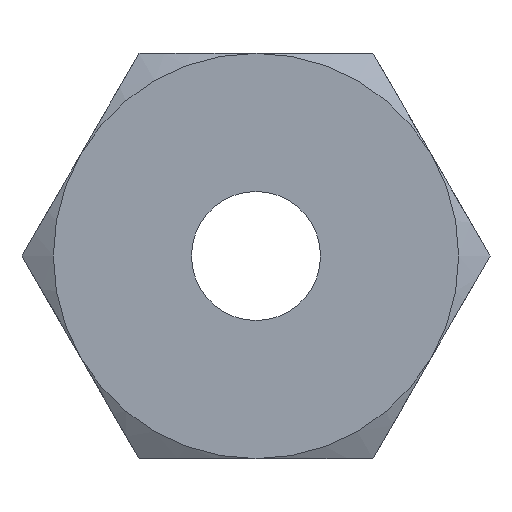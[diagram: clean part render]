
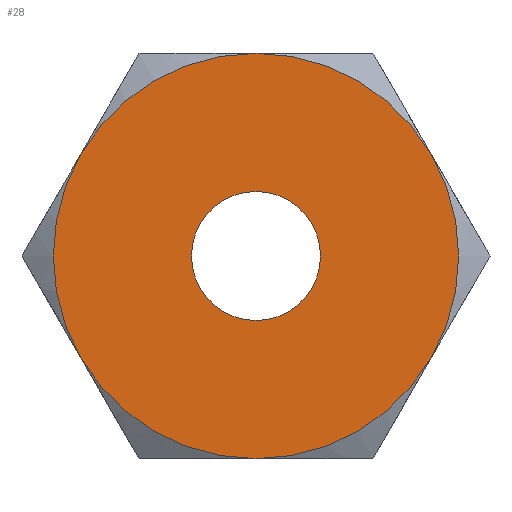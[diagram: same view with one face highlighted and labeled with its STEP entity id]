
A CAD part, front view. The second image highlights one B-rep face of the part: STEP entity #28.
In plain terms, the highlighted planar face has unit normal (0, -1, 0).
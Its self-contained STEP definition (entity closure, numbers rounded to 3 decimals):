
#3 = VERTEX_POINT ( 'NONE', #722 ) ;
#16 = ORIENTED_EDGE ( 'NONE', *, *, #44, .T. ) ;
#19 = EDGE_CURVE ( 'NONE', #693, #3, #738, .T. ) ;
#22 = ORIENTED_EDGE ( 'NONE', *, *, #19, .T. ) ;
#23 = EDGE_LOOP ( 'NONE', ( #22, #16, #42, #41, #36, #39 ) ) ;
#24 = ORIENTED_EDGE ( 'NONE', *, *, #558, .T. ) ;
#25 = EDGE_CURVE ( 'NONE', #559, #560, #732, .T. ) ;
#26 = EDGE_LOOP ( 'NONE', ( #27, #24 ) ) ;
#27 = ORIENTED_EDGE ( 'NONE', *, *, #25, .T. ) ;
#28 = ADVANCED_FACE ( 'NONE', ( #727, #726 ), #723, .F. ) ;
#36 = ORIENTED_EDGE ( 'NONE', *, *, #38, .T. ) ;
#37 = EDGE_CURVE ( 'NONE', #1308, #693, #771, .T. ) ;
#38 = EDGE_CURVE ( 'NONE', #1302, #1308, #762, .T. ) ;
#39 = ORIENTED_EDGE ( 'NONE', *, *, #37, .T. ) ;
#40 = EDGE_CURVE ( 'NONE', #638, #1302, #817, .T. ) ;
#41 = ORIENTED_EDGE ( 'NONE', *, *, #40, .T. ) ;
#42 = ORIENTED_EDGE ( 'NONE', *, *, #43, .T. ) ;
#43 = EDGE_CURVE ( 'NONE', #83, #638, #811, .T. ) ;
#44 = EDGE_CURVE ( 'NONE', #3, #83, #806, .T. ) ;
#83 = VERTEX_POINT ( 'NONE', #903 ) ;
#128 = CARTESIAN_POINT ( 'NONE',  ( -23.816, 0., -13.75 ) ) ;
#249 = CARTESIAN_POINT ( 'NONE',  ( 23.816, 0., 13.75 ) ) ;
#422 = CARTESIAN_POINT ( 'NONE',  ( 23.816, 0., -13.75 ) ) ;
#425 = CARTESIAN_POINT ( 'NONE',  ( 0., 0., -27.5 ) ) ;
#558 = EDGE_CURVE ( 'NONE', #560, #559, #1045, .T. ) ;
#559 = VERTEX_POINT ( 'NONE', #1040 ) ;
#560 = VERTEX_POINT ( 'NONE', #1039 ) ;
#638 = VERTEX_POINT ( 'NONE', #128 ) ;
#693 = VERTEX_POINT ( 'NONE', #249 ) ;
#722 = CARTESIAN_POINT ( 'NONE',  ( 0., 0., 27.5 ) ) ;
#723 = PLANE ( 'NONE',  #725 ) ;
#724 = CARTESIAN_POINT ( 'NONE',  ( 31.754, 0., 0. ) ) ;
#725 = AXIS2_PLACEMENT_3D ( 'NONE', #724, #787, #786 ) ;
#726 = FACE_OUTER_BOUND ( 'NONE', #23, .T. ) ;
#727 = FACE_BOUND ( 'NONE', #26, .T. ) ;
#728 = DIRECTION ( 'NONE',  ( 0., 0., 1. ) ) ;
#729 = DIRECTION ( 'NONE',  ( 0., 1., 0. ) ) ;
#730 = CARTESIAN_POINT ( 'NONE',  ( 0., 0., 0. ) ) ;
#731 = AXIS2_PLACEMENT_3D ( 'NONE', #730, #729, #728 ) ;
#732 = CIRCLE ( 'NONE', #731, 8.75 ) ;
#734 = DIRECTION ( 'NONE',  ( 0., 0., 1. ) ) ;
#735 = DIRECTION ( 'NONE',  ( 0., -1., 0. ) ) ;
#736 = CARTESIAN_POINT ( 'NONE',  ( 0., 0., 0. ) ) ;
#737 = AXIS2_PLACEMENT_3D ( 'NONE', #736, #735, #734 ) ;
#738 = CIRCLE ( 'NONE', #737, 27.5 ) ;
#758 = DIRECTION ( 'NONE',  ( 0., 0., -1. ) ) ;
#759 = DIRECTION ( 'NONE',  ( 0., -1., 0. ) ) ;
#760 = CARTESIAN_POINT ( 'NONE',  ( 0., 0., 0. ) ) ;
#761 = AXIS2_PLACEMENT_3D ( 'NONE', #760, #759, #758 ) ;
#762 = CIRCLE ( 'NONE', #761, 27.5 ) ;
#763 = DIRECTION ( 'NONE',  ( 0., 0., 1. ) ) ;
#765 = DIRECTION ( 'NONE',  ( 0., -1., 0. ) ) ;
#766 = CARTESIAN_POINT ( 'NONE',  ( 0., 0., 0. ) ) ;
#767 = AXIS2_PLACEMENT_3D ( 'NONE', #766, #765, #763 ) ;
#771 = CIRCLE ( 'NONE', #767, 27.5 ) ;
#786 = DIRECTION ( 'NONE',  ( 0., 0., 1. ) ) ;
#787 = DIRECTION ( 'NONE',  ( 0., 1., 0. ) ) ;
#802 = DIRECTION ( 'NONE',  ( 0., 0., 1. ) ) ;
#803 = DIRECTION ( 'NONE',  ( 0., -1., 0. ) ) ;
#804 = CARTESIAN_POINT ( 'NONE',  ( 0., 0., 0. ) ) ;
#805 = AXIS2_PLACEMENT_3D ( 'NONE', #804, #803, #802 ) ;
#806 = CIRCLE ( 'NONE', #805, 27.5 ) ;
#807 = DIRECTION ( 'NONE',  ( 0., 0., 1. ) ) ;
#808 = DIRECTION ( 'NONE',  ( 0., -1., 0. ) ) ;
#809 = CARTESIAN_POINT ( 'NONE',  ( 0., 0., 0. ) ) ;
#810 = AXIS2_PLACEMENT_3D ( 'NONE', #809, #808, #807 ) ;
#811 = CIRCLE ( 'NONE', #810, 27.5 ) ;
#813 = DIRECTION ( 'NONE',  ( 0., 0., 1. ) ) ;
#814 = DIRECTION ( 'NONE',  ( 0., -1., 0. ) ) ;
#815 = CARTESIAN_POINT ( 'NONE',  ( 0., 0., 0. ) ) ;
#816 = AXIS2_PLACEMENT_3D ( 'NONE', #815, #814, #813 ) ;
#817 = CIRCLE ( 'NONE', #816, 27.5 ) ;
#903 = CARTESIAN_POINT ( 'NONE',  ( -23.816, 0., 13.75 ) ) ;
#1039 = CARTESIAN_POINT ( 'NONE',  ( 0., 0., -8.75 ) ) ;
#1040 = CARTESIAN_POINT ( 'NONE',  ( 0., 0., 8.75 ) ) ;
#1041 = DIRECTION ( 'NONE',  ( 0., 0., 1. ) ) ;
#1042 = DIRECTION ( 'NONE',  ( 0., 1., 0. ) ) ;
#1043 = CARTESIAN_POINT ( 'NONE',  ( 0., 0., 0. ) ) ;
#1044 = AXIS2_PLACEMENT_3D ( 'NONE', #1043, #1042, #1041 ) ;
#1045 = CIRCLE ( 'NONE', #1044, 8.75 ) ;
#1302 = VERTEX_POINT ( 'NONE', #425 ) ;
#1308 = VERTEX_POINT ( 'NONE', #422 ) ;
